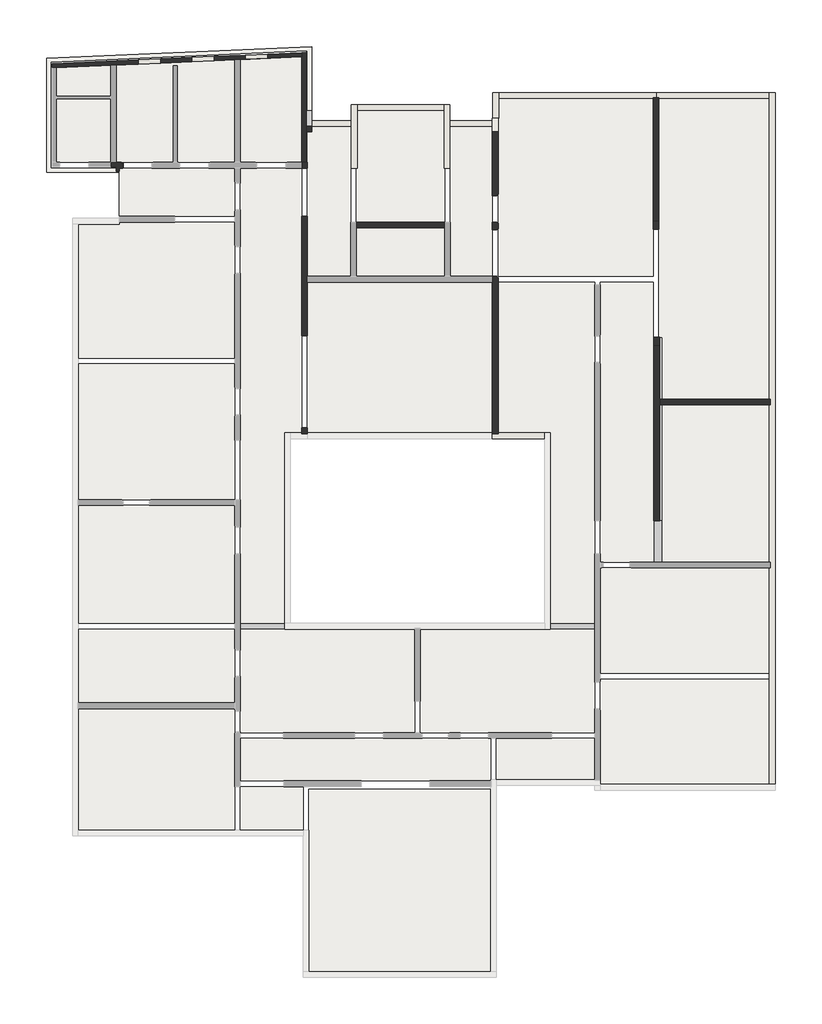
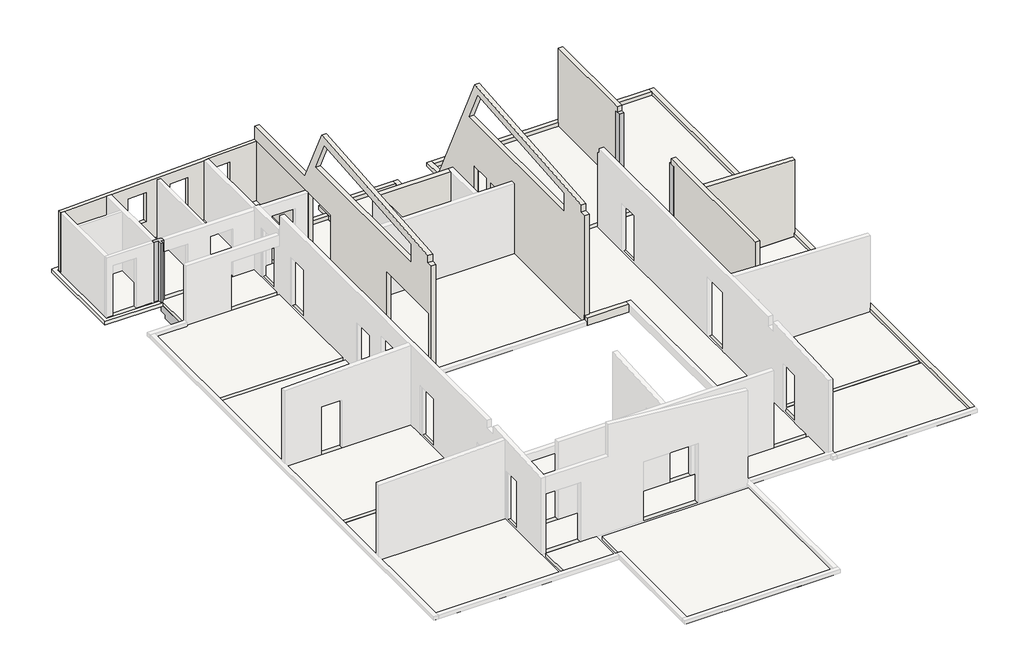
# One storey, part 2 of 2: 29 slabs, 18 walls, 4 beams, 4 columns.
"""IFC4 building model written with IfcOpenShell, lengths in millimetres."""

from ifc_helpers import new_model, si_unit, frame, origin, place, context, project, spatial, polyline, outline, extrude, faceted_brep, transform, mapped, element, save
from components import poteaux_p7_29867c90

model = new_model("IFC4")

# Units and contexts
model_context = context("Model", 3, world=origin())
ifc_project = project(units=[si_unit("LENGTHUNIT", "METRE", prefix="MILLI")], contexts=[model_context])

# Site, building, storey
site = spatial("IfcSite", under=ifc_project)
building = spatial("IfcBuilding", under=site)
storey = spatial("IfcBuildingStorey", under=building, Name="Dalle brute", Elevation=-170.0)

# Beams
placement = place(None, origin())
element("IfcBeam", 1, ObjectType="Poutre rectangulaire - Béton : BN2 dalle ep 16cm  30 x 16", at=placement, inside=storey, context=model_context, shape_type="SweptSolid", body=[
    extrude(outline(polyline([(6919.0077197, -3333.3410127), (6619.0077197, -3333.3410127), (6619.0077197, -1853.3410127), (6919.0077197, -1853.3410127), (6919.0077197, -3333.3410127)])), frame((0.0, 0.0, -330.0), z_axis=(0.0, 0.0, 1.0), x_axis=(1.0, 0.0, 0.0)), (0.0, 0.0, 1.0), 160.0),
])
element("IfcBeam", 2, ObjectType="Poutre rectangulaire - Béton : BN1 dalle ep16 cm  20 x 16", at=placement, inside=storey, context=model_context, shape_type="SweptSolid", body=[
    extrude(outline(polyline([(4519.0077197, -5505.3410127), (4519.0077197, -5705.3410127), (2935.0077197, -5705.3410127), (2935.0077197, -5505.3410127), (4519.0077197, -5505.3410127)])), frame((0.0, 0.0, -330.0), z_axis=(0.0, 0.0, 1.0), x_axis=(1.0, 0.0, 0.0)), (0.0, 0.0, 1.0), 160.0),
])
element("IfcBeam", 3, ObjectType="Poutre rectangulaire - Béton : BN1 dalle ep16 cm  20 x 16", at=placement, inside=storey, context=model_context, shape_type="SweptSolid", body=[
    extrude(outline(polyline([(-8065.5383156, -5705.3410127), (-8065.5383156, -5505.3410127), (-6494.9922803, -5505.3410127), (-6494.9922803, -5705.3410127), (-8065.5383156, -5705.3410127)])), frame((0.0, 0.0, -330.0), z_axis=(0.0, 0.0, 1.0), x_axis=(1.0, 0.0, 0.0)), (0.0, 0.0, 1.0), 160.0),
])
element("IfcBeam", 4, ObjectType="Poutre rectangulaire - Béton : Bêche 15 x 50", at=placement, inside=storey, context=model_context, shape_type="Brep", body=[
    faceted_brep([(-12225.3287642, 8946.6589873, -330.0), (-12225.3287642, 8946.6589873, -670.0), (-12225.3287642, 9075.6589873, -670.0), (-12225.3287642, 9075.6589873, -830.0), (-12225.3287642, 10866.6589873, -830.0), (-12225.3287642, 10866.6589873, -670.0), (-12225.3287642, 10666.6589873, -670.0), (-12225.3287642, 10666.6589873, -330.0), (-12375.3287642, 10366.9971942, -830.0), (-12225.5383156, 10366.9971942, -830.0), (-12225.5383156, 10866.6589873, -830.0), (-12375.3287642, 9075.6589873, -830.0), (-12375.3287642, 8946.6589873, -670.0), (-12375.3287642, 8946.6589873, -330.0), (-12375.3287642, 10516.6589873, -330.0), (-12375.3287642, 10666.6589873, -330.0), (-12375.3287642, 10666.6589873, -330.6891453), (-12375.3287642, 10666.6589873, -670.0), (-12375.3287642, 10366.9971942, -670.0), (-12375.3287642, 9075.6589873, -670.0), (-12225.5383156, 10666.6589873, -670.0), (-12225.5383156, 10866.6589873, -670.0), (-12225.5383156, 10366.9971942, -670.0)], [[[0, 1, 2, 3, 4, 5, 6, 7]], [[8, 9, 10, 4, 3, 11]], [[12, 13, 14, 15, 16, 17, 18, 8, 11, 19]], [[13, 0, 7, 15, 14]], [[1, 0, 13, 12]], [[7, 6, 20, 17, 16, 15]], [[6, 5, 21, 20]], [[22, 18, 17, 20]], [[18, 22, 9, 8]], [[19, 2, 1, 12]], [[2, 19, 11, 3]], [[5, 4, 10, 21]], [[22, 20, 21, 10, 9]]]),
])

# Columns
element("IfcColumn", 5, ObjectType="Poteau béton - Rectangulaire : P1 30 x 20", at=placement, inside=storey, context=model_context, shape_type="SweptSolid", body=[
    extrude(outline(polyline([(6819.0077197, 4661.6589873), (6819.0077197, 4361.6589873), (6619.0077197, 4361.6589873), (6619.0077197, 4661.6589873), (6819.0077197, 4661.6589873)])), frame((0.0, 0.0, -170.0), z_axis=(0.0, 0.0, 1.0), x_axis=(1.0, 0.0, 0.0)), (0.0, 0.0, 1.0), 3420.0),
])
element("IfcColumn", 6, ObjectType="Poteau béton - Rectangulaire : P2 30 x 20", at=placement, inside=storey, context=model_context, shape_type="Brep", body=[
    faceted_brep([(6794.4616844, 8801.6589873, -170.0), (6794.4616844, 8501.6589873, -170.0), (6594.4616844, 8501.6589873, -170.0), (6594.4616844, 8801.6589873, -170.0), (6794.4616844, 8801.6589873, 3210.0), (6794.4616844, 8649.6098449, 3210.0), (6794.4616844, 8501.6589873, 3210.0), (6594.4616844, 8501.6589873, 3210.0), (6594.4616844, 8649.6098449, 3210.0), (6594.4616844, 8801.6589873, 3210.0)], [[[0, 1, 2, 3]], [[1, 0, 4, 5, 6]], [[2, 1, 6, 7]], [[3, 2, 7, 8, 9]], [[0, 3, 9, 4]], [[7, 6, 5, 4, 9, 8]]]),
])
poteaux_p7_shape = poteaux_p7_29867c90(model_context)
element("IfcColumn", 7, ObjectType="Poteaux : P7", at=placement, inside=storey, context=model_context, shape_type="MappedRepresentation", body=[
    mapped(poteaux_p7_shape, transform((0.0, 0.0, 0.0), x_axis=(1.0, 0.0, 0.0), y_axis=(0.0, 1.0, 0.0), z_axis=(0.0, 0.0, 1.0))),
])
element("IfcColumn", 8, ObjectType="Poteau béton - Rectangulaire : poteau incline 17 x 17", at=placement, inside=storey, context=model_context, shape_type="Brep", body=[
    faceted_brep([(-5686.5383156, 11396.9051719, 2601.0), (-5686.5383156, 11208.6544502, 2601.0), (-5686.5383156, 11018.871352, 3000.0), (-5686.5383156, 11207.1220737, 3000.0), (-5707.5383156, 11396.9051719, 2601.0), (-5707.5383156, 11208.6544502, 2601.0), (-5537.5383156, 11018.871352, 3000.0), (-5537.5383156, 12526.9996964, -170.6891453), (-5537.5383156, 12715.2504181, -170.6891453), (-5537.5383156, 11207.1220737, 3000.0), (-5707.5383156, 12526.6719066, -170.0), (-5686.5383156, 12526.6719066, -170.0), (-5686.5383156, 12526.9996964, -170.6891453), (-5686.5383156, 12715.2504181, -170.6891453), (-5686.5383156, 12714.9226283, -170.0), (-5707.5383156, 12714.9226283, -170.0)], [[[0, 1, 2, 3]], [[1, 0, 4, 5]], [[6, 7, 8, 9]], [[7, 6, 2, 1, 5, 10, 11, 12]], [[8, 7, 12, 13]], [[9, 8, 13, 14, 15, 4, 0, 3]], [[5, 4, 15, 10]], [[6, 9, 3, 2]], [[11, 14, 13, 12]], [[14, 11, 10, 15]]]),
])

# Slabs
element("IfcSlab", 9, ObjectType="Dalle en béton - 16cm", at=placement, inside=storey, context=model_context, shape_type="SweptSolid", body=[
    extrude(outline(polyline([(10719.0077197, 13135.6589873), (10719.0077197, 2461.6589873), (6919.0077197, 2461.6589873), (6919.0077197, 4661.6589873), (6794.4616844, 4661.6589873), (6794.4616844, 13135.6589873), (10719.0077197, 13135.6589873)])), frame((0.0, 0.0, -330.0), z_axis=(0.0, 0.0, 1.0), x_axis=(1.0, 0.0, 0.0)), (0.0, 0.0, 1.0), 160.0),
])
element("IfcSlab", 10, ObjectType="Dalle en béton - 16cm", at=placement, inside=storey, context=model_context, shape_type="SweptSolid", body=[
    extrude(outline(polyline([(10719.0077197, -3533.3410127), (10719.0077197, -7278.3410127), (4719.0077197, -7278.3410127), (4719.0077197, -3533.3410127), (10719.0077197, -3533.3410127)])), frame((0.0, 0.0, -330.0), z_axis=(0.0, 0.0, 1.0), x_axis=(1.0, 0.0, 0.0)), (0.0, 0.0, 1.0), 160.0),
])
element("IfcSlab", 11, ObjectType="Dalle en béton - 16cm", at=placement, inside=storey, context=model_context, shape_type="SweptSolid", body=[
    extrude(outline(polyline([(10719.0077197, -7478.3410127), (10719.0077197, -11219.3410127), (4719.0077197, -11219.3410127), (4719.0077197, -7478.3410127), (10719.0077197, -7478.3410127)])), frame((0.0, 0.0, -330.0), z_axis=(0.0, 0.0, 1.0), x_axis=(1.0, 0.0, 0.0)), (0.0, 0.0, 1.0), 160.0),
])
element("IfcSlab", 12, ObjectType="Dalle en béton - 16cm", at=placement, inside=storey, context=model_context, shape_type="SweptSolid", body=[
    extrude(outline(polyline([(-4155.5383156, 12148.6589873), (-4155.5383156, 6816.6589873), (-5686.5383156, 6816.6589873), (-5686.5383156, 12148.6589873), (-4155.5383156, 12148.6589873)])), frame((0.0, 0.0, -330.0), z_axis=(0.0, 0.0, 1.0), x_axis=(1.0, 0.0, 0.0)), (0.0, 0.0, 1.0), 160.0),
])
element("IfcSlab", 13, ObjectType="Dalle en béton - 16cm", at=placement, inside=storey, context=model_context, shape_type="SweptSolid", body=[
    extrude(outline(polyline([(-815.5383156, 8541.6589873), (-815.5383156, 6816.6589873), (-3955.5383156, 6816.6589873), (-3955.5383156, 8541.6589873), (-815.5383156, 8541.6589873)])), frame((0.0, 0.0, -330.0), z_axis=(0.0, 0.0, 1.0), x_axis=(1.0, 0.0, 0.0)), (0.0, 0.0, 1.0), 160.0),
])
element("IfcSlab", 14, ObjectType="Dalle en béton - 16cm", at=placement, inside=storey, context=model_context, shape_type="SweptSolid", body=[
    extrude(outline(polyline([(884.4616844, 12148.6589873), (884.4616844, 6816.6589873), (-615.5383156, 6816.6589873), (-615.5383156, 12148.6589873), (884.4616844, 12148.6589873)])), frame((0.0, 0.0, -330.0), z_axis=(0.0, 0.0, 1.0), x_axis=(1.0, 0.0, 0.0)), (0.0, 0.0, 1.0), 160.0),
])
element("IfcSlab", 15, ObjectType="Dalle en béton - 16cm", at=placement, inside=storey, context=model_context, shape_type="Brep", body=[
    faceted_brep([(10719.0077197, 2261.6589873, -330.0), (10719.0077197, -3333.3410127, -330.0), (6919.0077197, -3333.3410127, -330.0), (6919.0077197, -1853.3410127, -330.0), (6919.0077197, 2261.6589873, -330.0), (10719.0077197, 2261.6589873, -170.0), (6919.0077197, 2261.6589873, -170.0), (6919.0077197, -1853.3410127, -170.0), (6919.0077197, -3333.3410127, -170.0), (10719.0077197, -3333.3410127, -170.0)], [[[0, 1, 2, 3, 4]], [[5, 6, 7, 8, 9]], [[1, 0, 5, 9]], [[2, 1, 9, 8]], [[4, 3, 2, 8, 7, 6]], [[0, 4, 6, 5]]]),
])
element("IfcSlab", 16, ObjectType="Dalle en béton - 16cm", at=placement, inside=storey, context=model_context, shape_type="Brep", body=[
    faceted_brep([(6594.4616844, 6616.6589873, -330.0), (6594.4616844, 4661.6589873, -330.0), (6619.0077197, 4661.6589873, -330.0), (6619.0077197, -1853.3410127, -330.0), (6619.0077197, -3333.3410127, -330.0), (4719.0077197, -3333.3410127, -330.0), (4719.0077197, 6616.6589873, -330.0), (6594.4616844, 6616.6589873, -170.0), (4719.0077197, 6616.6589873, -170.0), (4719.0077197, -3333.3410127, -170.0), (6619.0077197, -3333.3410127, -170.0), (6619.0077197, -1853.3410127, -170.0), (6619.0077197, 4661.6589873, -170.0), (6594.4616844, 4661.6589873, -170.0)], [[[0, 1, 2, 3, 4, 5, 6]], [[7, 8, 9, 10, 11, 12, 13]], [[4, 3, 2, 12, 11, 10]], [[5, 4, 10, 9]], [[6, 5, 9, 8]], [[0, 6, 8, 7]], [[1, 0, 7, 13]], [[2, 1, 13, 12]]]),
])
element("IfcSlab", 17, ObjectType="Dalle en béton - 16cm", at=placement, inside=storey, context=model_context, shape_type="SweptSolid", body=[
    extrude(outline(polyline([(4519.0077197, 6616.6589873), (4519.0077197, -5505.3410127), (2935.0077197, -5505.3410127), (2935.0077197, 1261.6589873), (1084.4616844, 1261.6589873), (1084.4616844, 6616.6589873), (4519.0077197, 6616.6589873)])), frame((0.0, 0.0, -330.0), z_axis=(0.0, 0.0, 1.0), x_axis=(1.0, 0.0, 0.0)), (0.0, 0.0, 1.0), 160.0),
])
element("IfcSlab", 18, ObjectType="Dalle en béton - 16cm", at=placement, inside=storey, context=model_context, shape_type="Brep", body=[
    faceted_brep([(4519.0077197, -5705.3410127, -330.0), (4519.0077197, -9380.3410127, -330.0), (-1673.2652979, -9380.3410127, -330.0), (-1673.2652979, -5705.3410127, -330.0), (2935.0077197, -5705.3410127, -330.0), (4519.0077197, -5705.3410127, -170.0), (2935.0077197, -5705.3410127, -170.0), (-1673.2652979, -5705.3410127, -170.0), (-1673.2652979, -9380.3410127, -170.0), (4519.0077197, -9380.3410127, -170.0)], [[[0, 1, 2, 3, 4]], [[5, 6, 7, 8, 9]], [[1, 0, 5, 9]], [[2, 1, 9, 8]], [[3, 2, 8, 7]], [[0, 4, 3, 7, 6, 5]]]),
])
element("IfcSlab", 19, ObjectType="Dalle en béton - 16cm", at=placement, inside=storey, context=model_context, shape_type="Brep", body=[
    faceted_brep([(-1873.2652979, -5705.3410127, -330.0), (-1873.2652979, -9380.3410127, -330.0), (-8065.5383156, -9380.3410127, -330.0), (-8065.5383156, -5705.3410127, -330.0), (-6494.9922803, -5705.3410127, -330.0), (-1873.2652979, -5705.3410127, -170.0), (-6494.9922803, -5705.3410127, -170.0), (-8065.5383156, -5705.3410127, -170.0), (-8065.5383156, -9380.3410127, -170.0), (-1873.2652979, -9380.3410127, -170.0)], [[[0, 1, 2, 3, 4]], [[5, 6, 7, 8, 9]], [[1, 0, 5, 9]], [[2, 1, 9, 8]], [[3, 2, 8, 7]], [[0, 4, 3, 7, 6, 5]]]),
])
element("IfcSlab", 20, ObjectType="Dalle en béton - 16cm", at=placement, inside=storey, context=model_context, shape_type="SweptSolid", body=[
    extrude(outline(polyline([(4519.0077197, -11046.3410127), (1018.0077197, -11046.3410127), (1018.0077197, -9580.3410127), (4519.0077197, -9580.3410127), (4519.0077197, -11046.3410127)])), frame((0.0, 0.0, -330.0), z_axis=(0.0, 0.0, 1.0), x_axis=(1.0, 0.0, 0.0)), (0.0, 0.0, 1.0), 160.0),
])
element("IfcSlab", 21, ObjectType="Dalle en béton - 16cm", at=placement, inside=storey, context=model_context, shape_type="SweptSolid", body=[
    extrude(outline(polyline([(818.0077197, -11095.3410127), (-8065.5383156, -11095.3410127), (-8065.5383156, -9580.3410127), (818.0077197, -9580.3410127), (818.0077197, -11095.3410127)])), frame((0.0, 0.0, -330.0), z_axis=(0.0, 0.0, 1.0), x_axis=(1.0, 0.0, 0.0)), (0.0, 0.0, 1.0), 160.0),
])
element("IfcSlab", 22, ObjectType="Dalle en béton - 16cm", at=placement, inside=storey, context=model_context, shape_type="SweptSolid", body=[
    extrude(outline(polyline([(818.0077197, -11395.3410127), (818.0077197, -17873.3410127), (-5638.9922803, -17873.3410127), (-5638.9922803, -11395.3410127), (818.0077197, -11395.3410127)])), frame((0.0, 0.0, -330.0), z_axis=(0.0, 0.0, 1.0), x_axis=(1.0, 0.0, 0.0)), (0.0, 0.0, 1.0), 160.0),
])
element("IfcSlab", 23, ObjectType="Dalle en béton - 16cm", at=placement, inside=storey, context=model_context, shape_type="SweptSolid", body=[
    extrude(outline(polyline([(-5838.9922803, -11295.3410127), (-5838.9922803, -12845.3410127), (-8065.5383156, -12845.3410127), (-8065.5383156, -11295.3410127), (-5838.9922803, -11295.3410127)])), frame((0.0, 0.0, -330.0), z_axis=(0.0, 0.0, 1.0), x_axis=(1.0, 0.0, 0.0)), (0.0, 0.0, 1.0), 160.0),
])
element("IfcSlab", 24, ObjectType="Dalle en béton - 16cm", at=placement, inside=storey, context=model_context, shape_type="SweptSolid", body=[
    extrude(outline(polyline([(-8265.5383156, -8528.3410127), (-8265.5383156, -12845.3410127), (-13820.5383156, -12845.3410127), (-13820.5383156, -8528.3410127), (-8265.5383156, -8528.3410127)])), frame((0.0, 0.0, -330.0), z_axis=(0.0, 0.0, 1.0), x_axis=(1.0, 0.0, 0.0)), (0.0, 0.0, 1.0), 160.0),
])
element("IfcSlab", 25, ObjectType="Dalle en béton - 16cm", at=placement, inside=storey, context=model_context, shape_type="SweptSolid", body=[
    extrude(outline(polyline([(-8265.5383156, -5705.3410127), (-8265.5383156, -8328.3410127), (-13820.5383156, -8328.3410127), (-13820.5383156, -5705.3410127), (-8265.5383156, -5705.3410127)])), frame((0.0, 0.0, -330.0), z_axis=(0.0, 0.0, 1.0), x_axis=(1.0, 0.0, 0.0)), (0.0, 0.0, 1.0), 160.0),
])
element("IfcSlab", 26, ObjectType="Dalle en béton - 16cm", at=placement, inside=storey, context=model_context, shape_type="SweptSolid", body=[
    extrude(outline(polyline([(-8265.5383156, -1313.3410127), (-8265.5383156, -5505.3410127), (-13820.5383156, -5505.3410127), (-13820.5383156, -1313.3410127), (-8265.5383156, -1313.3410127)])), frame((0.0, 0.0, -330.0), z_axis=(0.0, 0.0, 1.0), x_axis=(1.0, 0.0, 0.0)), (0.0, 0.0, 1.0), 160.0),
])
element("IfcSlab", 27, ObjectType="Dalle en béton - 16cm", at=placement, inside=storey, context=model_context, shape_type="SweptSolid", body=[
    extrude(outline(polyline([(-8265.5383156, -1113.3410127), (-13820.5383156, -1113.3410127), (-13820.5383156, 3716.6589873), (-8265.5383156, 3716.6589873), (-8265.5383156, -1113.3410127)])), frame((0.0, 0.0, -330.0), z_axis=(0.0, 0.0, 1.0), x_axis=(1.0, 0.0, 0.0)), (0.0, 0.0, 1.0), 160.0),
])
element("IfcSlab", 28, ObjectType="Dalle en béton - 16cm", at=placement, inside=storey, context=model_context, shape_type="SweptSolid", body=[
    extrude(outline(polyline([(-8265.5383156, 8746.6589873), (-8265.5383156, 3916.6589873), (-13820.5383156, 3916.6589873), (-13820.5383156, 8675.6589873), (-12375.5383156, 8675.6589873), (-12375.5383156, 8746.6589873), (-8265.5383156, 8746.6589873)])), frame((0.0, 0.0, -330.0), z_axis=(0.0, 0.0, 1.0), x_axis=(1.0, 0.0, 0.0)), (0.0, 0.0, 1.0), 160.0),
])
element("IfcSlab", 29, ObjectType="Dalle en béton - 16cm", at=placement, inside=storey, context=model_context, shape_type="SweptSolid", body=[
    extrude(outline(polyline([(-5886.5383156, 10666.6589873), (-5886.5383156, 1261.6589873), (-6494.9922803, 1261.6589873), (-6494.9922803, -5505.3410127), (-8065.5383156, -5505.3410127), (-8065.5383156, 10666.6589873), (-5886.5383156, 10666.6589873)])), frame((0.0, 0.0, -330.0), z_axis=(0.0, 0.0, 1.0), x_axis=(1.0, 0.0, 0.0)), (0.0, 0.0, 1.0), 160.0),
])
element("IfcSlab", 30, ObjectType="Dalle en béton - 16cm", at=placement, inside=storey, context=model_context, shape_type="SweptSolid", body=[
    extrude(outline(polyline([(884.4616844, 6616.6589873), (884.4616844, 1261.6589873), (-5685.5383156, 1261.6589873), (-5685.5383156, 6616.6589873), (884.4616844, 6616.6589873)])), frame((0.0, 0.0, -330.0), z_axis=(0.0, 0.0, 1.0), x_axis=(1.0, 0.0, 0.0)), (0.0, 0.0, 1.0), 160.0),
])
element("IfcSlab", 31, ObjectType="Dalle en béton - 16cm", at=placement, inside=storey, context=model_context, shape_type="SweptSolid", body=[
    extrude(outline(polyline([(-830.5383156, 12719.6589873), (-830.5383156, 12148.6589873), (-815.5383156, 12148.6589873), (-815.5383156, 8741.6589873), (-3955.5383156, 8741.6589873), (-3955.5383156, 12148.6589873), (-3922.5383156, 12148.6589873), (-3922.5383156, 12719.6589873), (-830.5383156, 12719.6589873)])), frame((0.0, 0.0, -330.0), z_axis=(0.0, 0.0, 1.0), x_axis=(1.0, 0.0, 0.0)), (0.0, 0.0, 1.0), 160.0),
])
element("IfcSlab", 32, ObjectType="Dalle en béton - 16cm", at=placement, inside=storey, context=model_context, shape_type="SweptSolid", body=[
    extrude(outline(polyline([(1099.4616844, 12148.6589873), (1099.4616844, 13135.6589873), (6594.4616844, 13135.6589873), (6594.4616844, 6816.6589873), (1084.4616844, 6816.6589873), (1084.4616844, 12148.6589873), (1099.4616844, 12148.6589873)])), frame((0.0, 0.0, -330.0), z_axis=(0.0, 0.0, 1.0), x_axis=(1.0, 0.0, 0.0)), (0.0, 0.0, 1.0), 160.0),
])
element("IfcSlab", 33, ObjectType="Corbeau", at=placement, inside=storey, context=model_context, shape_type="Brep", body=[
    faceted_brep([(-5536.5383156, 12348.6589873, -330.6891453), (-5686.5383156, 12348.6589873, -330.6891453), (-5686.5383156, 14823.6589873, -330.6891453), (-14799.5383156, 14424.6589873, -330.6891453), (-14799.5383156, 10666.6589873, -330.6891453), (-12375.3287642, 10666.6589873, -330.6891453), (-12375.3287642, 10516.6589873, -330.6891453), (-14949.5383156, 10516.6589873, -330.6891453), (-14949.5383156, 14568.2351529, -330.6891453), (-5536.5383156, 14980.3702346, -330.6891453), (-5536.5383156, 12348.6589873, -170.6891453), (-5536.5383156, 14980.3702346, -170.6891453), (-14949.5383156, 14568.2351529, -170.6891453), (-14949.5383156, 10516.6589873, -170.6891453), (-12375.3287642, 10516.6589873, -170.6891453), (-12375.3287642, 10666.6589873, -170.6891453), (-14799.5383156, 10666.6589873, -170.6891453), (-14799.5383156, 14424.6589873, -170.6891453), (-5686.5383156, 14823.6589873, -170.6891453), (-5686.5383156, 12715.2504181, -170.6891453), (-5686.5383156, 12526.9996964, -170.6891453), (-5686.5383156, 12348.6589873, -170.6891453), (-12375.3287642, 10666.6589873, -330.0)], [[[0, 1, 2, 3, 4, 5, 6, 7, 8, 9]], [[10, 11, 12, 13, 14, 15, 16, 17, 18, 19, 20, 21]], [[1, 0, 10, 21]], [[2, 1, 21, 20, 19, 18]], [[3, 2, 18, 17]], [[4, 3, 17, 16]], [[5, 4, 16, 15, 22]], [[6, 5, 22, 15, 14]], [[7, 6, 14, 13]], [[8, 7, 13, 12]], [[9, 8, 12, 11]], [[0, 9, 11, 10]]]),
])
element("IfcSlab", 34, ObjectType="Dalle en béton - 16cm", at=placement, inside=storey, context=model_context, shape_type="Brep", body=[
    faceted_brep([(-8265.5383156, 10666.6589873, -330.0), (-8265.5383156, 8946.6589873, -330.0), (-12225.3287642, 8946.6589873, -330.0), (-12375.3287642, 8946.6589873, -330.0), (-12375.5383156, 8946.6589873, -330.0), (-12375.5383156, 10666.6589873, -330.0), (-12375.3287642, 10666.6589873, -330.0), (-12225.3287642, 10666.6589873, -330.0), (-8265.5383156, 10666.6589873, -170.0), (-12375.5383156, 10666.6589873, -170.0), (-12375.5383156, 8946.6589873, -170.0), (-8265.5383156, 8946.6589873, -170.0)], [[[0, 1, 2, 3, 4, 5, 6, 7]], [[8, 9, 10, 11]], [[1, 0, 8, 11]], [[4, 3, 2, 1, 11, 10]], [[5, 4, 10, 9]], [[0, 7, 6, 5, 9, 8]]]),
])
element("IfcSlab", 35, ObjectType="Dalle en béton - 16cm", at=placement, inside=storey, context=model_context, shape_type="SweptSolid", body=[
    extrude(outline(polyline([(-5886.5383156, 10866.6589873), (-8065.5383156, 10866.6589873), (-8065.5383156, 14519.3061804), (-5886.5383156, 14614.7106575), (-5886.5383156, 10866.6589873)])), frame((0.0, 0.0, -330.0), z_axis=(0.0, 0.0, 1.0), x_axis=(1.0, 0.0, 0.0)), (0.0, 0.0, 1.0), 160.0),
])
element("IfcSlab", 36, ObjectType="Dalle en béton - 16cm", at=placement, inside=storey, context=model_context, shape_type="SweptSolid", body=[
    extrude(outline(polyline([(-8265.5383156, 10866.6589873), (-12475.5383156, 10866.6589873), (-12475.5383156, 14326.2204786), (-8265.5383156, 14510.5494592), (-8265.5383156, 10866.6589873)])), frame((0.0, 0.0, -330.0), z_axis=(0.0, 0.0, 1.0), x_axis=(1.0, 0.0, 0.0)), (0.0, 0.0, 1.0), 160.0),
])
element("IfcSlab", 37, ObjectType="Dalle en béton - 16cm", at=placement, inside=storey, context=model_context, shape_type="SweptSolid", body=[
    extrude(outline(polyline([(-12675.5383156, 14317.4637575), (-12675.5383156, 10866.6589873), (-14599.5383156, 10866.6589873), (-14599.5383156, 14233.2240998), (-12675.5383156, 14317.4637575)])), frame((0.0, 0.0, -330.0), z_axis=(0.0, 0.0, 1.0), x_axis=(1.0, 0.0, 0.0)), (0.0, 0.0, 1.0), 160.0),
])

# Walls
element("IfcWall", 38, ObjectType="Ext.surbot 17", at=placement, inside=storey, context=model_context, shape_type="Brep", body=[
    faceted_brep([(10919.0077197, -11219.3410127, -170.0), (10919.0077197, 13335.6589873, -170.0), (10919.0077197, 13335.6589873, 0.0), (10919.0077197, -11219.3410127, 0.0), (10719.0077197, -11219.3410127, -170.0), (10719.0077197, -11219.3410127, 0.0), (10719.0077197, 13135.6589873, 0.0), (10719.0077197, 13335.6589873, 0.0), (10719.0077197, 13335.6589873, -170.0), (10719.0077197, 13135.6589873, -170.0)], [[[0, 1, 2, 3]], [[4, 5, 6, 7, 8, 9]], [[1, 0, 4, 9, 8]], [[3, 2, 7, 6, 5]], [[0, 3, 5, 4]], [[2, 1, 8, 7]]]),
])
element("IfcWall", 39, ObjectType="Ext.surbot 17", at=placement, inside=storey, context=model_context, shape_type="SweptSolid", body=[
    extrude(outline(polyline([(6694.4616844, 13335.6589873), (10719.0077197, 13335.6589873), (10719.0077197, 13135.6589873), (6694.4616844, 13135.6589873), (6694.4616844, 13335.6589873)])), frame((0.0, 0.0, -170.0), z_axis=(0.0, 0.0, 1.0), x_axis=(1.0, 0.0, 0.0)), (0.0, 0.0, 1.0), 170.0),
])
element("IfcWall", 40, ObjectType="Ext.surbot 17", at=placement, inside=storey, context=model_context, shape_type="SweptSolid", body=[
    extrude(outline(polyline([(1099.4616844, 13335.6589873), (6694.4616844, 13335.6589873), (6694.4616844, 13135.6589873), (1099.4616844, 13135.6589873), (1099.4616844, 13335.6589873)])), frame((0.0, 0.0, -170.0), z_axis=(0.0, 0.0, 1.0), x_axis=(1.0, 0.0, 0.0)), (0.0, 0.0, 1.0), 170.0),
])
element("IfcWall", 41, ObjectType="Ext.surbot 17", at=placement, inside=storey, context=model_context, shape_type="SweptSolid", body=[
    extrude(outline(polyline([(-630.5383156, 12348.6589873), (884.4616844, 12348.6589873), (884.4616844, 12148.6589873), (-630.5383156, 12148.6589873), (-630.5383156, 12348.6589873)])), frame((0.0, 0.0, -170.0), z_axis=(0.0, 0.0, 1.0), x_axis=(1.0, 0.0, 0.0)), (0.0, 0.0, 1.0), 170.0),
])
element("IfcWall", 42, ObjectType="Ext.surbot 17", at=placement, inside=storey, context=model_context, shape_type="SweptSolid", body=[
    extrude(outline(polyline([(-5736.5383156, 12348.6589873), (-4122.5383156, 12348.6589873), (-4122.5383156, 12148.6589873), (-5736.5383156, 12148.6589873), (-5736.5383156, 12348.6589873)])), frame((0.0, 0.0, -170.0), z_axis=(0.0, 0.0, 1.0), x_axis=(1.0, 0.0, 0.0)), (0.0, 0.0, 1.0), 170.0),
])
element("IfcWall", 43, ObjectType="Ext.surbot 17", at=placement, inside=storey, context=model_context, shape_type="SweptSolid", body=[
    extrude(outline(polyline([(-3922.5383156, 12919.6589873), (-830.5383156, 12919.6589873), (-830.5383156, 12719.6589873), (-3922.5383156, 12719.6589873), (-3922.5383156, 12919.6589873)])), frame((0.0, 0.0, -170.0), z_axis=(0.0, 0.0, 1.0), x_axis=(1.0, 0.0, 0.0)), (0.0, 0.0, 1.0), 170.0),
])
element("IfcWall", 44, ObjectType="Ext.surbot 17", at=placement, inside=storey, context=model_context, shape_type="Brep", body=[
    faceted_brep([(-4122.5383156, 12919.6589873, -170.0), (-4122.5383156, 12348.6589873, -170.0), (-4122.5383156, 12148.6589873, -170.0), (-4122.5383156, 10666.6589873, -170.0), (-4122.5383156, 10666.6589873, 0.0), (-4122.5383156, 12148.6589873, 0.0), (-4122.5383156, 12348.6589873, 0.0), (-4122.5383156, 12919.6589873, 0.0), (-3922.5383156, 12919.6589873, -170.0), (-3922.5383156, 12919.6589873, 0.0), (-3922.5383156, 12719.6589873, 0.0), (-3922.5383156, 10666.6589873, 0.0), (-3922.5383156, 10666.6589873, -170.0), (-3922.5383156, 12148.6589873, -170.0), (-3922.5383156, 12719.6589873, -170.0)], [[[0, 1, 2, 3, 4, 5, 6, 7]], [[8, 9, 10, 11, 12, 13, 14]], [[3, 2, 1, 0, 8, 14, 13, 12]], [[4, 3, 12, 11]], [[7, 6, 5, 4, 11, 10, 9]], [[0, 7, 9, 8]]]),
])
element("IfcWall", 45, ObjectType="Ext.surbot 17", at=placement, inside=storey, context=model_context, shape_type="Brep", body=[
    faceted_brep([(-830.5383156, 12919.6589873, -170.0), (-830.5383156, 12719.6589873, -170.0), (-830.5383156, 10666.6589873, -170.0), (-830.5383156, 10666.6589873, 0.0), (-830.5383156, 12719.6589873, 0.0), (-830.5383156, 12919.6589873, 0.0), (-630.5383156, 12919.6589873, -170.0), (-630.5383156, 12919.6589873, 0.0), (-630.5383156, 12348.6589873, 0.0), (-630.5383156, 12148.6589873, 0.0), (-630.5383156, 10666.6589873, 0.0), (-630.5383156, 10666.6589873, -170.0), (-630.5383156, 12148.6589873, -170.0), (-630.5383156, 12348.6589873, -170.0)], [[[0, 1, 2, 3, 4, 5]], [[6, 7, 8, 9, 10, 11, 12, 13]], [[2, 1, 0, 6, 13, 12, 11]], [[3, 2, 11, 10]], [[5, 4, 3, 10, 9, 8, 7]], [[0, 5, 7, 6]]]),
])
element("IfcWall", 46, ObjectType="Ext.surbot 17", at=placement, inside=storey, context=model_context, shape_type="Brep", body=[
    faceted_brep([(899.4616844, 13335.6589873, -170.0), (899.4616844, 12441.6589873, -170.0), (899.4616844, 12441.6589873, 0.0), (899.4616844, 13335.6589873, 0.0), (1099.4616844, 13335.6589873, -170.0), (1099.4616844, 13335.6589873, 0.0), (1099.4616844, 13135.6589873, 0.0), (1099.4616844, 12441.6589873, 0.0), (1099.4616844, 12441.6589873, -170.0), (1099.4616844, 13135.6589873, -170.0)], [[[0, 1, 2, 3]], [[4, 5, 6, 7, 8, 9]], [[1, 0, 4, 9, 8]], [[2, 1, 8, 7]], [[3, 2, 7, 6, 5]], [[0, 3, 5, 4]]]),
])
element("IfcWall", 47, ObjectType="Ext.surbot 37", at=placement, inside=storey, context=model_context, shape_type="SweptSolid", body=[
    extrude(outline(polyline([(2735.0077197, 1061.6589873), (884.4616844, 1061.6589873), (884.4616844, 1261.6589873), (2735.0077197, 1261.6589873), (2735.0077197, 1061.6589873)])), frame((0.0, 0.0, -170.0), z_axis=(0.0, 0.0, 1.0), x_axis=(1.0, 0.0, 0.0)), (0.0, 0.0, 1.0), 370.0),
])
element("IfcWall", 48, ObjectType="Ext. BBM 15 cm", at=placement, inside=storey, context=model_context, shape_type="Brep", body=[
    faceted_brep([(-5736.5383156, 10866.6589873, -170.0), (-5736.5383156, 14771.4219048, -170.0), (-5736.5383156, 14771.4219048, 2600.0), (-5736.5383156, 10866.6589873, 2600.0), (-5886.5383156, 10866.6589873, -170.0), (-5886.5383156, 10866.6589873, 2600.0), (-5886.5383156, 14614.7106575, 2600.0), (-5886.5383156, 14764.854364, 2600.0), (-5886.5383156, 14764.854364, -170.0), (-5886.5383156, 14614.7106575, -170.0)], [[[0, 1, 2, 3]], [[4, 5, 6, 7, 8, 9]], [[1, 0, 4, 9, 8]], [[3, 2, 7, 6, 5]], [[0, 3, 5, 4]], [[2, 1, 8, 7]]]),
])
element("IfcWall", 49, ObjectType="Ext. BBM 15 cm", at=placement, inside=storey, context=model_context, shape_type="Brep", body=[
    faceted_brep([(-5886.5383156, 14764.854364, -170.0), (-14749.5383156, 14376.8002654, -170.0), (-14749.5383156, 14376.8002654, 2600.0), (-14599.5383156, 14383.3678063, 2600.0), (-5886.5383156, 14764.854364, 2600.0), (-7100.2318383, 14711.7144852, 2080.0), (-7901.8953509, 14676.6147659, 2080.0), (-7901.8953509, 14676.6147659, 730.0), (-7100.2318383, 14711.7144852, 730.0), (-9000.8425121, 14628.4988966, 2080.0), (-9802.1338103, 14593.4154742, 2080.0), (-9802.1338103, 14593.4154742, 730.0), (-9000.8425121, 14628.4988966, 730.0), (-10901.0809715, 14545.2996049, 2080.0), (-11701.3770987, 14510.2597547, 2080.0), (-11701.3770987, 14510.2597547, 730.0), (-10901.0809715, 14545.2996049, 730.0), (-14749.5383156, 14226.656559, -170.0), (-14599.5383156, 14233.2240998, -170.0), (-12675.5383156, 14317.4637575, -170.0), (-12475.5383156, 14326.2204786, -170.0), (-8265.5383156, 14510.5494592, -170.0), (-8065.5383156, 14519.3061804, -170.0), (-5886.5383156, 14614.7106575, -170.0), (-5886.5383156, 14614.7106575, 2600.0), (-8065.5383156, 14519.3061804, 2600.0), (-8265.5383156, 14510.5494592, 2600.0), (-12475.5383156, 14326.2204786, 2600.0), (-12675.5383156, 14317.4637575, 2600.0), (-14599.5383156, 14233.2240998, 2600.0), (-14749.5383156, 14226.656559, 2600.0), (-7895.334096, 14526.7583348, 2080.0), (-7093.6705834, 14561.8580541, 2080.0), (-7093.6705834, 14561.8580541, 730.0), (-7895.334096, 14526.7583348, 730.0), (-9795.5725554, 14443.5590431, 2080.0), (-8994.2812572, 14478.6424655, 2080.0), (-8994.2812572, 14478.6424655, 730.0), (-9795.5725554, 14443.5590431, 730.0), (-11694.8158438, 14360.4033236, 2080.0), (-10894.5197166, 14395.4431738, 2080.0), (-10894.5197166, 14395.4431738, 730.0), (-11694.8158438, 14360.4033236, 730.0)], [[[0, 1, 2, 3, 4], [5, 6, 7, 8], [9, 10, 11, 12], [13, 14, 15, 16]], [[17, 18, 19, 20, 21, 22, 23, 24, 25, 26, 27, 28, 29, 30], [31, 32, 33, 34], [35, 36, 37, 38], [39, 40, 41, 42]], [[1, 0, 23, 22, 21, 20, 19, 18, 17]], [[4, 3, 2, 30, 29, 28, 27, 26, 25, 24]], [[2, 1, 17, 30]], [[0, 4, 24, 23]], [[5, 32, 31, 6]], [[7, 34, 33, 8]], [[32, 5, 8, 33]], [[6, 31, 34, 7]], [[9, 36, 35, 10]], [[11, 38, 37, 12]], [[36, 9, 12, 37]], [[10, 35, 38, 11]], [[13, 40, 39, 14]], [[15, 42, 41, 16]], [[40, 13, 16, 41]], [[14, 39, 42, 15]]]),
])
element("IfcWall", 50, ObjectType="Ext. BBM 20 cm", at=placement, inside=storey, context=model_context, shape_type="SweptSolid", body=[
    extrude(outline(polyline([(-170.0, 10744.0077197), (3410.0, 10744.0077197), (3510.0, 6819.0077197), (-170.0, 6819.0077197), (-170.0, 10744.0077197)])), frame((0.0, 2261.6589873, 0.0), z_axis=(0.0, 1.0, 0.0), x_axis=(0.0, 0.0, 1.0)), (0.0, 0.0, 1.0), 200.0),
])
element("IfcWall", 51, ObjectType="Ext. BBM 20 cm", at=placement, inside=storey, context=model_context, shape_type="SweptSolid", body=[
    extrude(outline(polyline([(13160.6589873, -170.0), (8801.6589873, -170.0), (8801.6589873, 3210.0), (8649.6098449, 3210.0), (8649.6098449, 3470.0), (13160.6589873, 3470.0), (13160.6589873, -170.0)])), frame((6594.4616844, 0.0, 0.0), z_axis=(1.0, 0.0, 0.0), x_axis=(0.0, 1.0, 0.0)), (0.0, 0.0, 1.0), 200.0),
])
element("IfcWall", 52, ObjectType="Ext. BBM 20 cm", at=placement, inside=storey, context=model_context, shape_type="SweptSolid", body=[
    extrude(outline(polyline([(-1853.3410127, -170.0), (-1853.3410127, 3510.0), (4551.6589873, 3510.0), (4551.6589873, 3250.0), (4361.6589873, 3250.0), (4361.6589873, -170.0), (-1853.3410127, -170.0)])), frame((6619.0077197, 0.0, 0.0), z_axis=(1.0, 0.0, 0.0), x_axis=(0.0, 1.0, 0.0)), (0.0, 0.0, 1.0), 200.0),
])
element("IfcWall", 53, ObjectType="Ext. Voile BA 20", at=placement, inside=storey, context=model_context, shape_type="Brep", body=[
    faceted_brep([(884.4616844, 1236.6589873, -170.0), (884.4616844, 1236.6589873, 4880.0), (884.4616844, 1502.6589873, 4880.0), (884.4616844, 1502.6589873, 5198.8741706), (884.4616844, 9642.6589873, 5893.0), (884.4616844, 12441.6589873, 2.1046429), (884.4616844, 12441.6589873, -170.0), (884.4616844, 9683.6589873, -170.0), (884.4616844, 9683.6589873, 2060.0), (884.4616844, 8748.6589873, 2060.0), (884.4616844, 8748.6589873, -170.0), (884.4616844, 8468.6589873, -170.0), (884.4616844, 8468.6589873, 2060.0), (884.4616844, 6816.6589873, 2060.0), (884.4616844, 6816.6589873, -170.0), (884.4616844, 9425.4610667, 5511.2760363), (884.4616844, 2828.496848, 4950.3152057), (884.4616844, 2828.496848, 4140.0), (884.4616844, 10077.0091579, 4140.0), (1084.4616844, 1236.6589873, 4880.0), (1084.4616844, 1236.6589873, -170.0), (1084.4616844, 6766.6589873, -170.0), (1084.4616844, 6766.6589873, 2110.0), (1084.4616844, 8518.6589873, 2110.0), (1084.4616844, 8518.6589873, -170.0), (1084.4616844, 8698.6589873, -170.0), (1084.4616844, 8698.6589873, 2110.0), (1084.4616844, 9733.6589873, 2110.0), (1084.4616844, 9733.6589873, -170.0), (1084.4616844, 12441.6589873, -170.0), (1084.4616844, 12441.6589873, 2.1046429), (1084.4616844, 9642.6589873, 5893.0), (1084.4616844, 1502.6589873, 5198.8741706), (1084.4616844, 1502.6589873, 4880.0), (1084.4616844, 2828.496848, 4950.3152057), (1084.4616844, 9425.4610667, 5511.2760363), (1084.4616844, 10077.0091579, 4140.0), (1084.4616844, 2828.496848, 4140.0), (1034.4616844, 6816.6589873, -170.0), (1034.4616844, 6766.6589873, -170.0), (1034.4616844, 8468.6589873, -170.0), (1034.4616844, 8748.6589873, -170.0), (1034.4616844, 8698.6589873, -170.0), (1034.4616844, 8518.6589873, -170.0), (1034.4616844, 9733.6589873, -170.0), (1034.4616844, 9683.6589873, -170.0), (1034.4616844, 8468.6589873, 2060.0), (1034.4616844, 6816.6589873, 2060.0), (1034.4616844, 6766.6589873, 2110.0), (1034.4616844, 8518.6589873, 2110.0), (1034.4616844, 9683.6589873, 2060.0), (1034.4616844, 8748.6589873, 2060.0), (1034.4616844, 8698.6589873, 2110.0), (1034.4616844, 9733.6589873, 2110.0)], [[[0, 1, 2, 3, 4, 5, 6, 7, 8, 9, 10, 11, 12, 13, 14], [15, 16, 17, 18]], [[19, 20, 21, 22, 23, 24, 25, 26, 27, 28, 29, 30, 31, 32, 33], [34, 35, 36, 37]], [[1, 0, 20, 19]], [[2, 1, 19, 33]], [[3, 2, 33, 32]], [[16, 15, 35, 34]], [[17, 16, 34, 37]], [[18, 17, 37, 36]], [[20, 0, 14, 38, 39, 21]], [[40, 11, 10, 41, 42, 25, 24, 43]], [[6, 29, 28, 44, 45, 7]], [[46, 47, 13, 12]], [[47, 38, 14, 13]], [[40, 46, 12, 11]], [[39, 48, 22, 21]], [[47, 46, 40, 43, 49, 48, 39, 38]], [[22, 48, 49, 23]], [[49, 43, 24, 23]], [[50, 51, 9, 8]], [[51, 41, 10, 9]], [[45, 50, 8, 7]], [[42, 52, 26, 25]], [[51, 50, 45, 44, 53, 52, 42, 41]], [[26, 52, 53, 27]], [[53, 44, 28, 27]], [[4, 3, 32, 31]], [[5, 4, 31, 30]], [[15, 18, 36, 35]], [[6, 5, 30, 29]]]),
])
element("IfcWall", 54, ObjectType="Ext. Voile BA 20", at=placement, inside=storey, context=model_context, shape_type="Brep", body=[
    faceted_brep([(-5886.5383156, 10866.6589873, -170.0), (-5886.5383156, 10666.6589873, -170.0), (-5886.5383156, 10666.6589873, 2600.0), (-5886.5383156, 8946.6589873, 2600.0), (-5886.5383156, 8946.6589873, -170.0), (-5886.5383156, 4706.6589873, -170.0), (-5886.5383156, 4706.6589873, 2550.0), (-5886.5383156, 1436.6589873, 2550.0), (-5886.5383156, 1436.6589873, -170.0), (-5886.5383156, 1236.6589873, -170.0), (-5886.5383156, 1236.6589873, 4880.0), (-5886.5383156, 1501.6589873, 4880.0), (-5886.5383156, 1501.6589873, 5201.0), (-5886.5383156, 9641.6589873, 5891.0), (-5886.5383156, 10922.0830097, 3201.0), (-5886.5383156, 14771.4219048, 3201.0), (-5886.5383156, 14771.4219048, 2601.0), (-5886.5383156, 10866.6589873, 2601.0), (-5886.5383156, 2812.2623237, 4950.8043165), (-5886.5383156, 2812.2623237, 4138.2352142), (-5886.5383156, 10077.2623237, 4138.2352142), (-5886.5383156, 9423.7224788, 5511.2352142), (-5686.5383156, 10866.6589873, -170.0), (-5686.5383156, 10866.6589873, 2601.0), (-5686.5383156, 11208.6544502, 2601.0), (-5686.5383156, 11396.9051719, 2601.0), (-5686.5383156, 14771.4219048, 2601.0), (-5686.5383156, 14771.4219048, 3201.0), (-5686.5383156, 10922.0830097, 3201.0), (-5686.5383156, 9641.6589873, 5891.0), (-5686.5383156, 1501.6589873, 5201.0), (-5686.5383156, 1501.6589873, 4880.0), (-5686.5383156, 1236.6589873, 4880.0), (-5686.5383156, 1236.6589873, -170.0), (-5686.5383156, 1436.6589873, -170.0), (-5686.5383156, 1436.6589873, 2550.0), (-5686.5383156, 4706.6589873, 2550.0), (-5686.5383156, 4706.6589873, -170.0), (-5686.5383156, 8946.6589873, -170.0), (-5686.5383156, 8946.6589873, 2600.0), (-5686.5383156, 10666.6589873, 2600.0), (-5686.5383156, 10666.6589873, -170.0), (-5686.5383156, 2812.2623237, 4950.8043165), (-5686.5383156, 9423.7224788, 5511.2352142), (-5686.5383156, 10077.2623237, 4138.2352142), (-5686.5383156, 2812.2623237, 4138.2352142)], [[[0, 1, 2, 3, 4, 5, 6, 7, 8, 9, 10, 11, 12, 13, 14, 15, 16, 17], [18, 19, 20, 21]], [[22, 23, 24, 25, 26, 27, 28, 29, 30, 31, 32, 33, 34, 35, 36, 37, 38, 39, 40, 41], [42, 43, 44, 45]], [[10, 9, 33, 32]], [[0, 17, 23, 22]], [[11, 10, 32, 31]], [[12, 11, 31, 30]], [[13, 12, 30, 29]], [[14, 13, 29, 28]], [[15, 14, 28, 27]], [[16, 15, 27, 26]], [[17, 16, 26, 25, 24, 23]], [[19, 18, 42, 45]], [[20, 19, 45, 44]], [[21, 20, 44, 43]], [[18, 21, 43, 42]], [[1, 0, 22, 41]], [[2, 1, 41, 40]], [[3, 2, 40, 39]], [[4, 3, 39, 38]], [[5, 4, 38, 37]], [[6, 5, 37, 36]], [[7, 6, 36, 35]], [[8, 7, 35, 34]], [[9, 8, 34, 33]]]),
])
element("IfcWall", 55, ObjectType="Ext. Voile BA 20", at=placement, inside=storey, context=model_context, shape_type="SweptSolid", body=[
    extrude(outline(polyline([(-3955.5383156, 8741.6589873), (-815.5383156, 8741.6589873), (-815.5383156, 8541.6589873), (-3955.5383156, 8541.6589873), (-3955.5383156, 8741.6589873)])), frame((0.0, 0.0, -170.0), z_axis=(0.0, 0.0, 1.0), x_axis=(1.0, 0.0, 0.0)), (0.0, 0.0, 1.0), 3270.0),
])

save(model, "model.ifc")
